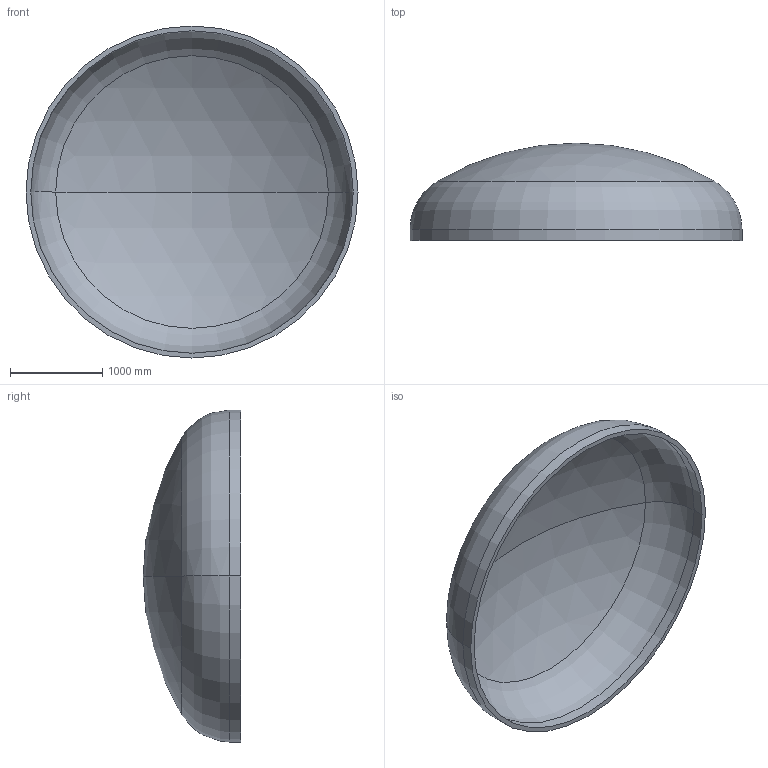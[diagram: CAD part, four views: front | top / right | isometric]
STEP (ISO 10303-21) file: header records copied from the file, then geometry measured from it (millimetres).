
FILE_DESCRIPTION (( 'STEP AP203' ), '1' );
FILE_NAME ('DIN 28013 Korbbogenform_-_Boden DIN 28013 - 3600 x 120 - I - s=52.step', '2016-07-01T20:32:09', ( '' ), ( '' ), 'SwSTEP 2.0', 'SolidWorks 2013', '' );
FILE_SCHEMA (( 'CONFIG_CONTROL_DESIGN' ));
Length unit declared in the file: millimetre
Products named in the file (1): DIN 28013 Korbbogenform_-_Boden DIN 28013 - 3600 x 120 - I - s=52
Bounding box: 3600 x 1056.41 x 3600 mm (x, y, z)
Volume: 788918907.3 mm3; surface area: 30928298.6 mm2
Topology: 1 solids, 1 shells, 13 faces, 24 edges, 14 vertices
Faces by surface type: torus 4, cylinder 4, sphere 4, plane 1
Entity records: 407 total; most frequent: DIRECTION 72, CARTESIAN_POINT 52, ORIENTED_EDGE 48, AXIS2_PLACEMENT_3D 34, EDGE_CURVE 24, CIRCLE 20, EDGE_LOOP 14, VERTEX_POINT 14
